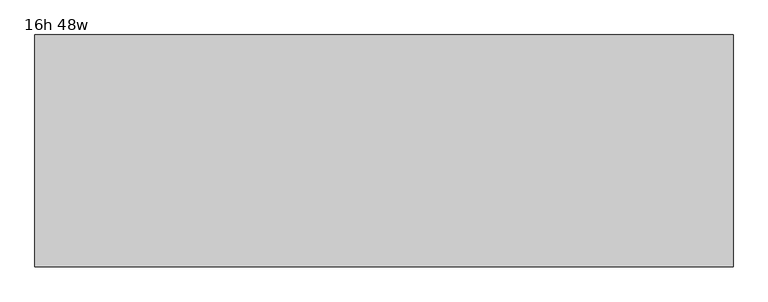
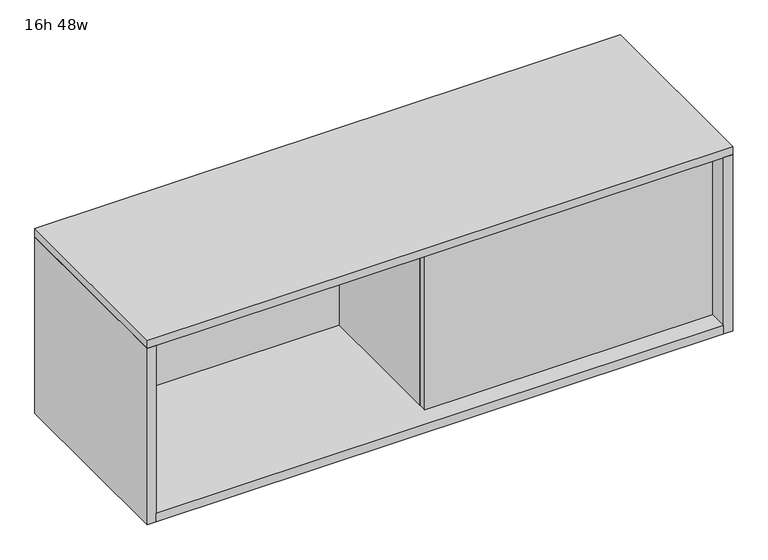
"""IFC4 building model written with IfcOpenShell, lengths in millimetres: furniture geometry, Haworth_BeHold_OverheadStorage_Open_DoubleSided : 16h 48w."""

from ifc_helpers import new_model, si_unit, frame, origin, place, context, project, spatial, polyline, outline, extrude, source, transform, mapped, element, save


def furniture_16h_48w_82f80c26(model_context):
    return source(origin(), model_context, "Body", "SweptSolid", [
        extrude(outline(polyline([(-146.3736531, 454.9373918), (-146.3736531, 437.721375), (-747.4091553, 437.721375), (-747.4091553, 454.9373918), (-146.3736531, 454.9373918)])), frame((0.0, 0.0, 462.2867374), z_axis=(0.0, 0.0, 1.0), x_axis=(1.0, 0.0, 0.0)), (0.0, 0.0, 1.0), 370.0319437),
        extrude(outline(polyline([(-146.3736531, 146.478625), (-165.5736439, 146.478625), (-165.5736439, 437.721375), (-146.3736531, 437.721375), (-146.3736531, 146.478625)])), frame((0.0, 0.0, 462.2867374), z_axis=(0.0, 0.0, 1.0), x_axis=(1.0, 0.0, 0.0)), (0.0, 0.0, 1.0), 370.0319437),
        extrude(outline(polyline([(433.6908447, 89.662), (-747.4091553, 89.662), (-747.4091553, 494.538), (433.6908447, 494.538), (433.6908447, 89.662)])), frame((0.0, 0.0, 444.1027093), z_axis=(0.0, 0.0, 1.0), x_axis=(1.0, 0.0, 0.0)), (0.0, 0.0, 1.0), 18.1840281),
        extrude(outline(polyline([(-747.4091553, 89.662), (-766.4591553, 89.662), (-766.4591553, 494.538), (-747.4091553, 494.538), (-747.4091553, 89.662)])), frame((0.0, 0.0, 444.1027093), z_axis=(0.0, 0.0, 1.0), x_axis=(1.0, 0.0, 0.0)), (0.0, 0.0, 1.0), 388.2159719),
        extrude(outline(polyline([(452.7408447, 89.662), (433.6908447, 89.662), (433.6908447, 494.538), (452.7408447, 494.538), (452.7408447, 89.662)])), frame((0.0, 0.0, 444.1027093), z_axis=(0.0, 0.0, 1.0), x_axis=(1.0, 0.0, 0.0)), (0.0, 0.0, 1.0), 388.2159719),
        extrude(outline(polyline([(433.6908447, 129.2626082), (-165.5736439, 129.2626082), (-165.5736439, 146.478625), (433.6908447, 146.478625), (433.6908447, 129.2626082)])), frame((0.0, 0.0, 462.2867374), z_axis=(0.0, 0.0, 1.0), x_axis=(1.0, 0.0, 0.0)), (0.0, 0.0, 1.0), 370.0319437),
        extrude(outline(polyline([(452.7408447, 89.662), (-766.4591553, 89.662), (-766.4591553, 494.538), (452.7408447, 494.538), (452.7408447, 89.662)])), frame((0.0, 0.0, 832.3186811), z_axis=(0.0, 0.0, 1.0), x_axis=(1.0, 0.0, 0.0)), (0.0, 0.0, 1.0), 18.1840281),
    ])


if __name__ == "__main__":
    model = new_model("IFC4")
    model_context = context("Model", 3, world=origin())
    ifc_project = project(units=[si_unit("LENGTHUNIT", "METRE", prefix="MILLI")], contexts=[model_context])
    site = spatial("IfcSite", under=ifc_project)
    building = spatial("IfcBuilding", under=site)
    placement = place(None, origin())
    furniture_16h_48w_shape = furniture_16h_48w_82f80c26(model_context)
    element("IfcFurniture", 1, ObjectType="Haworth_BeHold_OverheadStorage_Open_DoubleSided : 16h 48w", at=placement, inside=building, context=model_context, shape_type="MappedRepresentation", body=[
        mapped(furniture_16h_48w_shape, transform((0.0, 0.0, 0.0), x_axis=(1.0, 0.0, 0.0), y_axis=(0.0, 1.0, 0.0), z_axis=(0.0, 0.0, 1.0))),
    ])
    save(model, "model.ifc")
